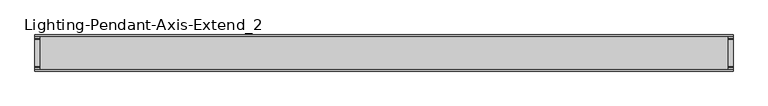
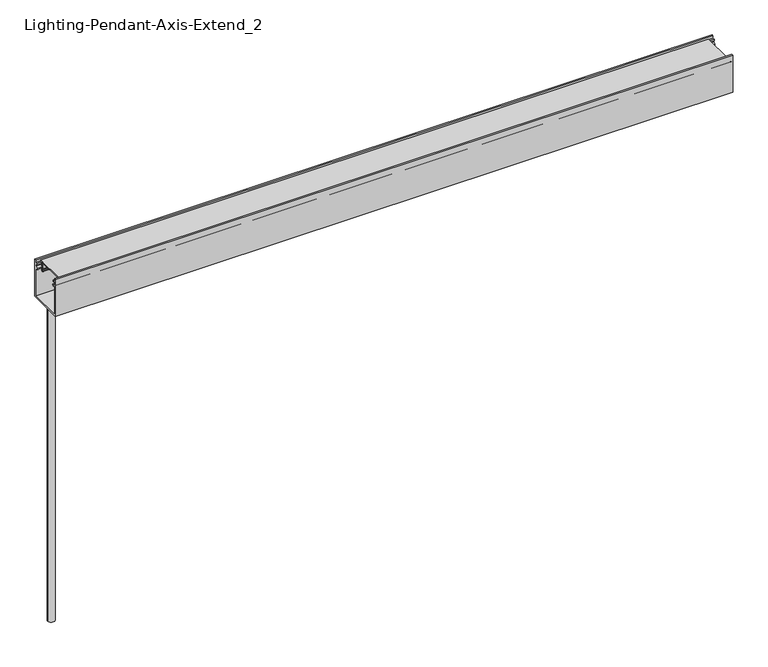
"""IFC4 building model written with IfcOpenShell, lengths in millimetres: light fixture geometry, Lighting-Pendant-Axis-Extend_2 : EX2PD-900-80-35-SO-4."""

import ifcopenshell
import ifcopenshell.guid

model = None  # the IFC model being written
_history = None  # IfcOwnerHistory: only IFC2X3 demands one
_inside = {}  # id of a spatial element -> (the spatial element, [elements in it])
_under = {}  # id of a project, library or spatial element -> (it, [spatial elements below it])
_declared = {}  # id of a project -> (the project, [libraries it declares])
_typed = {}  # id of a type object -> (the type object, [elements of that type])
_made_of = {}  # id of a material, layer set ... -> (it, [elements and type objects made of it])


def new_model(schema):
    """Start an empty IFC model of exactly this schema.

    Asked for "IFC4X3", IfcOpenShell would pick the latest addendum, in which some entities
    have other attributes; the version numbers below select the first issue.
    IFC2X3 requires an IfcOwnerHistory on every rooted entity: one is made here for all.
    """
    global model, _history
    if schema == "IFC4X3":
        model = ifcopenshell.file(schema_version=(4, 3, 0, 0))
    else:
        model = ifcopenshell.file(schema=schema)
    _inside.clear()
    _under.clear()
    _declared.clear()
    _typed.clear()
    _made_of.clear()
    _history = None
    if model.schema == "IFC2X3":
        org = make("IfcOrganization", Name="unknown")
        user = make(
            "IfcPersonAndOrganization",
            ThePerson=make("IfcPerson", FamilyName="unknown"),
            TheOrganization=org,
        )
        app = make(
            "IfcApplication",
            ApplicationDeveloper=org,
            Version="unknown",
            ApplicationFullName="unknown",
            ApplicationIdentifier="unknown",
        )
        _history = make(
            "IfcOwnerHistory",
            OwningUser=user,
            OwningApplication=app,
            ChangeAction="ADDED",
            CreationDate=0,
        )
    return model


def make(cls, **values):
    """One entity of the class cls with the attributes given. An attribute that is None is left unset."""
    return model.create_entity(
        cls, **{name: value for name, value in values.items() if value is not None}
    )


def rooted(cls, **values):
    """An entity with a GlobalId (a new one), such as an element, a storey or a relation."""
    return make(cls, GlobalId=ifcopenshell.guid.new(), OwnerHistory=_history, **values)


def si_unit(unit_type, name, prefix=None):
    """IfcSIUnit, for example si_unit("LENGTHUNIT", "METRE", prefix="MILLI")."""
    return make("IfcSIUnit", UnitType=unit_type, Prefix=prefix, Name=name)


def assignment(units):
    """IfcUnitAssignment: the units of a project."""
    return None if units is None else make("IfcUnitAssignment", Units=units)


def point(xyz):
    """IfcCartesianPoint."""
    return None if xyz is None else make("IfcCartesianPoint", Coordinates=xyz)


def direction(xyz):
    """IfcDirection."""
    return None if xyz is None else make("IfcDirection", DirectionRatios=xyz)


def frame(location, z_axis=None, x_axis=None):
    """IfcAxis2Placement3D, a coordinate frame: its origin and axes. An axis left out is left unset."""
    return make(
        "IfcAxis2Placement3D",
        Location=point(location),
        Axis=direction(z_axis),
        RefDirection=direction(x_axis),
    )


def frame_2d(location, x_axis=None):
    """IfcAxis2Placement2D, a coordinate frame in the plane: its origin and x axis."""
    return make(
        "IfcAxis2Placement2D", Location=point(location), RefDirection=direction(x_axis)
    )


def origin():
    """The frame at (0, 0, 0) with its axes left unset."""
    return frame((0.0, 0.0, 0.0))


def place(relative_to, where):
    """IfcLocalPlacement: puts the frame where relative to a parent placement (None: the world)."""
    return make(
        "IfcLocalPlacement", PlacementRelTo=relative_to, RelativePlacement=where
    )


def context(
    kind, dimensions, precision=None, world=None, true_north=None, identifier=None
):
    """IfcGeometricRepresentationContext, for example the 3D "Model" context."""
    return make(
        "IfcGeometricRepresentationContext",
        ContextIdentifier=identifier,
        ContextType=kind,
        CoordinateSpaceDimension=dimensions,
        Precision=precision,
        WorldCoordinateSystem=world,
        TrueNorth=true_north,
    )


def project(units=None, contexts=None):
    """IfcProject with its units and contexts."""
    return rooted(
        "IfcProject",
        Name="project",
        RepresentationContexts=contexts,
        UnitsInContext=assignment(units),
    )


def spatial(cls, under=None, at=None, **own):
    """A site, building, storey or space (cls), placed at a placement, below another one or the project."""
    s = rooted(cls, ObjectPlacement=at, **own)
    if under is not None:
        _under.setdefault(under.id(), (under, []))[1].append(s)
    return s


def polyline(points):
    """IfcPolyline through the points."""
    return make("IfcPolyline", Points=[point(p) for p in points])


def circle_curve(where, radius):
    """IfcCircle in the frame where."""
    return make("IfcCircle", Position=where, Radius=radius)


def trimmed(basis, trim1, trim2, sense, master):
    """IfcTrimmedCurve: the piece of a basis curve between two trims."""
    return make(
        "IfcTrimmedCurve",
        BasisCurve=basis,
        Trim1=trim1,
        Trim2=trim2,
        SenseAgreement=sense,
        MasterRepresentation=master,
    )


def segment(curve, same_sense, transition):
    """IfcCompositeCurveSegment."""
    return make(
        "IfcCompositeCurveSegment",
        Transition=transition,
        SameSense=same_sense,
        ParentCurve=curve,
    )


def composite_curve(segments, self_intersect=None):
    """IfcCompositeCurve: segments joined end to end."""
    return make("IfcCompositeCurve", Segments=segments, SelfIntersect=self_intersect)


def outline(outer, holes=None, kind="AREA"):
    """IfcArbitraryClosedProfileDef: a profile drawn as a closed curve; with holes, ...WithVoids."""
    if holes is None:
        return make("IfcArbitraryClosedProfileDef", ProfileType=kind, OuterCurve=outer)
    return make(
        "IfcArbitraryProfileDefWithVoids",
        ProfileType=kind,
        OuterCurve=outer,
        InnerCurves=holes,
    )


def extrude(swept, where, along, depth):
    """IfcExtrudedAreaSolid: the profile swept, set in the frame where, extruded along a direction by depth."""
    return make(
        "IfcExtrudedAreaSolid",
        SweptArea=swept,
        Position=where,
        ExtrudedDirection=direction(along),
        Depth=depth,
    )


def shape(context_of_items, identifier, shape_type, items):
    """IfcShapeRepresentation: the items that make up one representation, for example the "Body"."""
    return make(
        "IfcShapeRepresentation",
        ContextOfItems=context_of_items,
        RepresentationIdentifier=identifier,
        RepresentationType=shape_type,
        Items=items,
    )


def source(mapping_origin, context_of_items, identifier, shape_type, items):
    """IfcRepresentationMap: a shape defined once, which mapped items show again and again."""
    return make(
        "IfcRepresentationMap",
        MappingOrigin=mapping_origin,
        MappedRepresentation=shape(context_of_items, identifier, shape_type, items),
    )


def transform(
    local_origin,
    x_axis=None,
    y_axis=None,
    z_axis=None,
    scale=None,
    scale2=None,
    scale3=None,
    uniform=True,
):
    """IfcCartesianTransformationOperator3D, or its non-uniform kind. x_axis, y_axis, z_axis: its Axis1, 2, 3."""
    if uniform:
        return make(
            "IfcCartesianTransformationOperator3D",
            Axis1=direction(x_axis),
            Axis2=direction(y_axis),
            LocalOrigin=point(local_origin),
            Scale=scale,
            Axis3=direction(z_axis),
        )
    return make(
        "IfcCartesianTransformationOperator3DnonUniform",
        Axis1=direction(x_axis),
        Axis2=direction(y_axis),
        LocalOrigin=point(local_origin),
        Scale=scale,
        Axis3=direction(z_axis),
        Scale2=scale2,
        Scale3=scale3,
    )


def mapped(mapping_source, mapping_target):
    """IfcMappedItem: shows the shape of a source again, moved by a transform."""
    return make(
        "IfcMappedItem", MappingSource=mapping_source, MappingTarget=mapping_target
    )


def made_of(thing, what):
    """Note that an element or type object is made of a material, layer set ...; save() writes the relation."""
    if what is not None:
        _made_of.setdefault(what.id(), (what, []))[1].append(thing)
    return thing


def element(
    cls,
    number,
    at=None,
    inside=None,
    cuts=None,
    type_object=None,
    material=None,
    context=None,
    identifier="Body",
    shape_type=None,
    held_by="IfcProductDefinitionShape",
    body=None,
    shapes=None,
    **own,
):
    """One element of the class cls, such as IfcWall. Its Tag is "e" and its number.

    at: its placement. inside: the storey or other place that contains it. cuts: it is an
    opening in that element (IfcRelVoidsElement). A single representation is given by context,
    identifier, shape_type and body (its items); several are given by shapes. held_by: the class
    of the entity that holds the representations. save() writes the other relations.
    """
    e = rooted(cls, Tag="e%d" % number, ObjectPlacement=at, **own)
    if body is not None:
        shapes = [shape(context, identifier, shape_type, body)]
    if shapes is not None:
        e.Representation = make(held_by, Representations=shapes)
    if inside is not None:
        _inside.setdefault(inside.id(), (inside, []))[1].append(e)
    if cuts is not None:
        rooted(
            "IfcRelVoidsElement", RelatingBuildingElement=cuts, RelatedOpeningElement=e
        )
    if type_object is not None:
        _typed.setdefault(type_object.id(), (type_object, []))[1].append(e)
    return made_of(e, material)


def aggregate(whole, parts):
    """IfcRelAggregates: a whole, such as a stair, and the parts it consists of."""
    return rooted("IfcRelAggregates", RelatingObject=whole, RelatedObjects=parts)


def save(model, path):
    """Write the relations noted so far, then the file.

    IfcRelAggregates (storeys below a building ...), IfcRelContainedInSpatialStructure (elements
    in a storey), IfcRelDefinesByType, IfcRelAssociatesMaterial and IfcRelDeclares: one each for
    every whole, place, type object, material and project.
    """
    for whole, parts in _under.values():
        aggregate(whole, parts)
    for where, things in _inside.values():
        rooted(
            "IfcRelContainedInSpatialStructure",
            RelatedElements=things,
            RelatingStructure=where,
        )
    for kind, things in _typed.values():
        rooted("IfcRelDefinesByType", RelatedObjects=things, RelatingType=kind)
    for what, things in _made_of.values():
        rooted("IfcRelAssociatesMaterial", RelatedObjects=things, RelatingMaterial=what)
    for by, libraries in _declared.values():
        rooted("IfcRelDeclares", RelatingContext=by, RelatedDefinitions=libraries)
    model.write(path)


def plane_surface(at):
    """IfcPlane: the flat surface through the origin of the frame at, square to its z axis."""
    return make("IfcPlane", Position=at)


def cylinder_surface(at, radius):
    """IfcCylindricalSurface: all points at the distance radius from the z axis of the frame at."""
    return make("IfcCylindricalSurface", Position=at, Radius=radius)


def advanced_brep(points, edges, surfaces, faces):
    """IfcAdvancedBrep: a solid bounded by faces that lie on surfaces and meet in shared edges.

    An edge is (start, end): straight between two places in points (the first is 0);
    or (start, end, curve); or (start, end, curve, False) where it runs against its curve.
    A face is (place in surfaces, loops), or (place, loops, False) where it looks against
    its surface's normal. A loop lists edges by number (the first is 1), with a minus sign
    where the edge is run from its end to its start. The first loop is the outer one.
    """
    corners = [point(p) for p in points]
    vertices = [make("IfcVertexPoint", VertexGeometry=c) for c in corners]
    made = []
    for start, end, *more in edges:
        made.append(
            make(
                "IfcEdgeCurve",
                EdgeStart=vertices[start],
                EdgeEnd=vertices[end],
                EdgeGeometry=more[0] if more else make("IfcPolyline", Points=[corners[start], corners[end]]),
                SameSense=more[1] if len(more) > 1 else True,
            )
        )
    hull = []
    for where, loops, *sense in faces:
        bounds = []
        for j, loop in enumerate(loops):
            ring = [make("IfcOrientedEdge", EdgeElement=made[abs(k) - 1], Orientation=k > 0) for k in loop]
            bounds.append(
                make(
                    "IfcFaceOuterBound" if j == 0 else "IfcFaceBound",
                    Bound=make("IfcEdgeLoop", EdgeList=ring),
                    Orientation=True,
                )
            )
        hull.append(make("IfcAdvancedFace", Bounds=bounds, FaceSurface=surfaces[where], SameSense=sense[0] if sense else True))
    return make("IfcAdvancedBrep", Outer=make("IfcClosedShell", CfsFaces=hull))


def lighting_pendant_axis_extend_2_d94316a9(model_context):
    return source(origin(), model_context, "Body", "SolidModel", [
        advanced_brep(
        [(-601.472, 0.0, 609.6), (-614.172, 0.0, 609.6), (-607.822, 0.0, 609.6), (-601.472, 0.0, 0.0), (-614.172, 0.0, 0.0), (-607.822, 0.0, 0.0)],
        [
            (0, 1, circle_curve(frame((-607.822, 0.0, 609.6), z_axis=(0.0, 0.0, 1.0), x_axis=(-1.0, 0.0, 0.0)), 6.35)),
            (1, 2),
            (2, 0),
            (1, 0, circle_curve(frame((-607.822, 0.0, 609.6), z_axis=(0.0, 0.0, 1.0), x_axis=(-1.0, 0.0, 0.0)), 6.35)),
            (3, 4, circle_curve(frame((-607.822, 0.0, 0.0), z_axis=(0.0, 0.0, 1.0), x_axis=(-1.0, 0.0, 0.0)), 6.35)),
            (4, 1),
            (0, 3),
            (4, 3, circle_curve(frame((-607.822, 0.0, 0.0), z_axis=(0.0, 0.0, 1.0), x_axis=(-1.0, 0.0, 0.0)), 6.35)),
            (5, 4),
            (3, 5),
        ],
        [
            plane_surface(frame((-607.822, 0.0, 609.6), z_axis=(0.0, 0.0, 1.0), x_axis=(-1.0, 0.0, 0.0))),
            cylinder_surface(frame((-607.822, 0.0, 2913.8581012), z_axis=(0.0, 0.0, -1.0), x_axis=(-1.0, 0.0, 0.0)), 6.35),
            plane_surface(frame((-607.822, 0.0, 0.0), z_axis=(0.0, 0.0, -1.0), x_axis=(-1.0, 0.0, 0.0))),
        ],
        [
            (0, [[1, 2, 3]]),
            (0, [[4, -3, -2]]),
            (1, [[5, 6, -1, 7]]),
            (1, [[8, -7, -4, -6]]),
            (2, [[9, -5, 10]]),
            (2, [[-10, -8, -9]]),
        ],
    ),
        extrude(outline(composite_curve([segment(polyline([(-24.1727262, 676.1479991), (-24.5114181, 669.6853737)]), True, "CONTINUOUS"), segment(trimmed(circle_curve(frame_2d((-27.2542, 666.6865)), 4.064), [point((-24.5114181, 669.6853737))], [point((-25.3818814, 663.0794903))], False, "CARTESIAN"), True, "CONTINUOUS"), segment(trimmed(circle_curve(frame_2d((-22.149344, 663.8683457)), 3.3274001), [point((-25.3818814, 663.0794903))], [point((-24.5665956, 661.5817575))], True, "CARTESIAN"), True, "CONTINUOUS"), segment(trimmed(circle_curve(frame_2d((-17.1303177, 668.6160708)), 10.2362001), [point((-24.5665956, 661.5817575))], [point((-23.2119066, 660.3823555))], True, "CARTESIAN"), True, "CONTINUOUS"), segment(trimmed(circle_curve(frame_2d((-23.7023573, 659.7183462)), 0.8255), [point((-23.2119066, 660.3823555))], [point((-24.192808, 659.0543369))], False, "CARTESIAN"), True, "CONTINUOUS"), segment(trimmed(circle_curve(frame_2d((-17.1303169, 668.6160717)), 11.8872013), [point((-24.192808, 659.0543369))], [point((-25.7659952, 660.4471908))], False, "CARTESIAN"), True, "CONTINUOUS"), segment(trimmed(circle_curve(frame_2d((-22.149344, 663.8683457)), 4.9784001), [point((-25.7659952, 660.4471908))], [point((-27.1108807, 664.27776))], False, "CARTESIAN"), True, "CONTINUOUS"), segment(trimmed(circle_curve(frame_2d((-27.2542, 666.6865)), 2.413), [point((-27.1108807, 664.27776))], [point((-25.4753941, 668.3169658))], True, "CARTESIAN"), True, "CONTINUOUS"), segment(trimmed(circle_curve(frame_2d((-23.6029669, 670.0332456)), 2.54), [point((-25.4753941, 668.3169658))], [point((-26.1394859, 670.1661789))], False, "CARTESIAN"), True, "CONTINUOUS"), segment(polyline([(-26.1394859, 670.1661789), (-25.825992, 676.1479991), (-28.829, 676.1479991), (-28.829, 678.053), (28.829, 678.053), (28.829, 676.1479991), (25.825992, 676.1479991), (26.1394859, 670.1661789)]), True, "CONTINUOUS"), segment(trimmed(circle_curve(frame_2d((23.6029669, 670.0332456)), 2.54), [point((26.1394859, 670.1661789))], [point((25.4753941, 668.3169658))], False, "CARTESIAN"), True, "CONTINUOUS"), segment(trimmed(circle_curve(frame_2d((27.2542, 666.6865)), 2.413), [point((25.4753941, 668.3169658))], [point((27.1108807, 664.27776))], True, "CARTESIAN"), True, "CONTINUOUS"), segment(trimmed(circle_curve(frame_2d((22.149344, 663.8683457)), 4.9784001), [point((27.1108807, 664.27776))], [point((25.7659952, 660.4471908))], False, "CARTESIAN"), True, "CONTINUOUS"), segment(trimmed(circle_curve(frame_2d((17.1303169, 668.6160717)), 11.8872013), [point((25.7659952, 660.4471908))], [point((24.192808, 659.0543369))], False, "CARTESIAN"), True, "CONTINUOUS"), segment(trimmed(circle_curve(frame_2d((23.7023573, 659.7183462)), 0.8255), [point((24.192808, 659.0543369))], [point((23.2119066, 660.3823555))], False, "CARTESIAN"), True, "CONTINUOUS"), segment(trimmed(circle_curve(frame_2d((17.1303177, 668.6160708)), 10.2362001), [point((23.2119066, 660.3823555))], [point((24.5665956, 661.5817575))], True, "CARTESIAN"), True, "CONTINUOUS"), segment(trimmed(circle_curve(frame_2d((22.149344, 663.8683457)), 3.3274001), [point((24.5665956, 661.5817575))], [point((25.3818814, 663.0794903))], True, "CARTESIAN"), True, "CONTINUOUS"), segment(trimmed(circle_curve(frame_2d((27.2542, 666.6865)), 4.064), [point((25.3818814, 663.0794903))], [point((24.5114181, 669.6853737))], False, "CARTESIAN"), True, "CONTINUOUS"), segment(polyline([(24.5114181, 669.6853737), (24.1727262, 676.1479991), (-24.1727262, 676.1479991)]), True, "CONTINUOUS")], self_intersect=False)), frame((-609.6, 0.0, 0.0), z_axis=(1.0, 0.0, 0.0), x_axis=(0.0, 1.0, 0.0)), (0.0, 0.0, 1.0), 1219.2),
        extrude(outline(composite_curve([segment(polyline([(-29.972, 666.1277), (-29.972, 611.632), (29.972, 611.632), (29.972, 666.1277), (28.1325797, 666.1277)]), True, "CONTINUOUS"), segment(trimmed(circle_curve(frame_2d((26.6262297, 666.1277)), 1.5063501), [point((28.1325797, 666.1277))], [point((25.8730546, 664.8231626))], False, "CARTESIAN"), True, "CONTINUOUS"), segment(trimmed(circle_curve(frame_2d((27.0642121, 666.8863079)), 2.382315), [point((25.8730546, 664.8231626))], [point((24.6896516, 667.0783682))], False, "CARTESIAN"), True, "CONTINUOUS"), segment(polyline([(24.6896516, 667.0783682), (28.067, 669.9123), (28.067, 668.1597), (29.972, 668.1597), (29.972, 674.6875), (28.067, 674.6875), (28.067, 673.1635), (26.416, 673.2500252), (26.416, 675.9575), (29.972, 675.9575), (29.972, 681.0375), (32.004, 681.0375), (32.004, 609.6), (-32.004, 609.6), (-32.004, 681.0375), (-29.972, 681.0375), (-29.972, 675.9575), (-26.416, 675.9575), (-26.416, 673.2500252), (-28.067, 673.1635), (-28.067, 674.6875), (-29.972, 674.6875), (-29.972, 668.1597), (-28.067, 668.1597), (-28.067, 669.9123), (-24.6896516, 667.0783682)]), True, "CONTINUOUS"), segment(trimmed(circle_curve(frame_2d((-27.0642121, 666.8863079)), 2.382315), [point((-24.6896516, 667.0783682))], [point((-25.8730546, 664.8231626))], False, "CARTESIAN"), True, "CONTINUOUS"), segment(trimmed(circle_curve(frame_2d((-26.6262297, 666.1277)), 1.5063501), [point((-25.8730546, 664.8231626))], [point((-28.1325797, 666.1277))], False, "CARTESIAN"), True, "CONTINUOUS"), segment(polyline([(-28.1325797, 666.1277), (-29.972, 666.1277)]), True, "CONTINUOUS")], self_intersect=False)), frame((-618.7567, 0.0, 0.0), z_axis=(1.0, 0.0, 0.0), x_axis=(0.0, 1.0, 0.0)), (0.0, 0.0, 1.0), 1237.5134),
    ])


if __name__ == "__main__":
    model = new_model("IFC4")
    model_context = context("Model", 3, world=origin())
    ifc_project = project(units=[si_unit("LENGTHUNIT", "METRE", prefix="MILLI")], contexts=[model_context])
    site = spatial("IfcSite", under=ifc_project)
    building = spatial("IfcBuilding", under=site)
    placement = place(None, origin())
    lighting_pendant_axis_extend_2_shape = lighting_pendant_axis_extend_2_d94316a9(model_context)
    element("IfcLightFixture", 1, ObjectType="Lighting-Pendant-Axis-Extend_2 : EX2PD-900-80-35-SO-4", at=placement, inside=building, context=model_context, shape_type="MappedRepresentation", body=[
        mapped(lighting_pendant_axis_extend_2_shape, transform((0.0, 0.0, 0.0), x_axis=(1.0, 0.0, 0.0), y_axis=(0.0, 1.0, 0.0), z_axis=(0.0, 0.0, 1.0))),
    ])
    save(model, "model.ifc")
